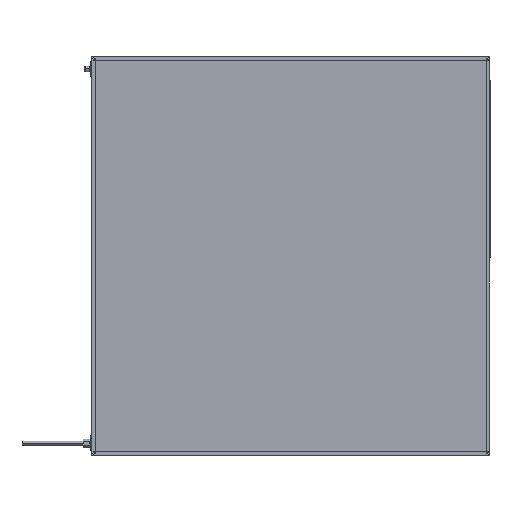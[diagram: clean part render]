
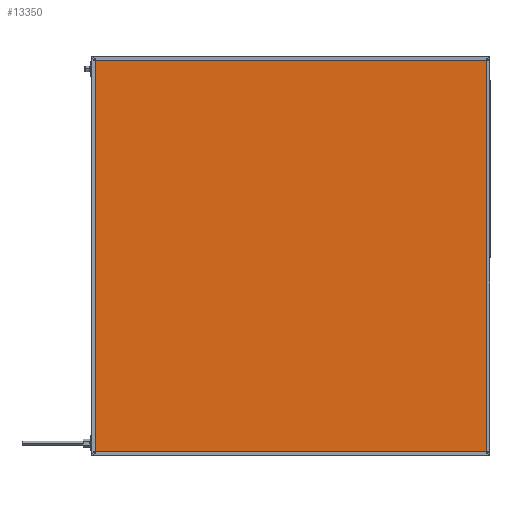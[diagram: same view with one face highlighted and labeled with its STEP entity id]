
A CAD part, top view. The second image highlights one B-rep face of the part: STEP entity #13350.
In plain terms, the highlighted planar face has unit normal (0, 0, 1).
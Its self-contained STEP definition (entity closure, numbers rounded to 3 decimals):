
#42 = CARTESIAN_POINT ( 'NONE',  ( 896., 896., 41.85 ) ) ;
#159 = CARTESIAN_POINT ( 'NONE',  ( 0., 4., 41.85 ) ) ;
#475 = LINE ( 'NONE', #4761, #4951 ) ;
#569 = DIRECTION ( 'NONE',  ( 0., -1., 0. ) ) ;
#1197 = VERTEX_POINT ( 'NONE', #4186 ) ;
#1491 = AXIS2_PLACEMENT_3D ( 'NONE', #14180, #15639, #8353 ) ;
#1809 = VECTOR ( 'NONE', #11196, 1000. ) ;
#2720 = CARTESIAN_POINT ( 'NONE',  ( 896., 0., 41.85 ) ) ;
#3663 = LINE ( 'NONE', #7582, #14258 ) ;
#4186 = CARTESIAN_POINT ( 'NONE',  ( 896., 4., 41.85 ) ) ;
#4761 = CARTESIAN_POINT ( 'NONE',  ( 4., 0., 41.85 ) ) ;
#4951 = VECTOR ( 'NONE', #569, 1000. ) ;
#5638 = LINE ( 'NONE', #159, #17476 ) ;
#7582 = CARTESIAN_POINT ( 'NONE',  ( 0., 896., 41.85 ) ) ;
#8168 = EDGE_LOOP ( 'NONE', ( #9461, #8388, #14054, #16279 ) ) ;
#8353 = DIRECTION ( 'NONE',  ( -1., 0., 0. ) ) ;
#8388 = ORIENTED_EDGE ( 'NONE', *, *, #11463, .T. ) ;
#9170 = CARTESIAN_POINT ( 'NONE',  ( 4., 896., 41.85 ) ) ;
#9461 = ORIENTED_EDGE ( 'NONE', *, *, #13903, .T. ) ;
#9917 = DIRECTION ( 'NONE',  ( 1., 0., 0. ) ) ;
#10675 = DIRECTION ( 'NONE',  ( -1., 0., 0. ) ) ;
#11196 = DIRECTION ( 'NONE',  ( 0., 1., 0. ) ) ;
#11267 = FACE_OUTER_BOUND ( 'NONE', #8168, .T. ) ;
#11463 = EDGE_CURVE ( 'NONE', #13296, #13063, #3663, .T. ) ;
#11923 = VERTEX_POINT ( 'NONE', #12719 ) ;
#12194 = EDGE_CURVE ( 'NONE', #13063, #11923, #475, .T. ) ;
#12719 = CARTESIAN_POINT ( 'NONE',  ( 4., 4., 41.85 ) ) ;
#12933 = EDGE_CURVE ( 'NONE', #11923, #1197, #5638, .T. ) ;
#13063 = VERTEX_POINT ( 'NONE', #9170 ) ;
#13296 = VERTEX_POINT ( 'NONE', #42 ) ;
#13350 = ADVANCED_FACE ( 'NONE', ( #11267 ), #16729, .F. ) ;
#13903 = EDGE_CURVE ( 'NONE', #1197, #13296, #16663, .T. ) ;
#14054 = ORIENTED_EDGE ( 'NONE', *, *, #12194, .T. ) ;
#14180 = CARTESIAN_POINT ( 'NONE',  ( 0., 0., 41.85 ) ) ;
#14258 = VECTOR ( 'NONE', #10675, 1000. ) ;
#15639 = DIRECTION ( 'NONE',  ( 0., 0., -1. ) ) ;
#16279 = ORIENTED_EDGE ( 'NONE', *, *, #12933, .T. ) ;
#16663 = LINE ( 'NONE', #2720, #1809 ) ;
#16729 = PLANE ( 'NONE',  #1491 ) ;
#17476 = VECTOR ( 'NONE', #9917, 1000. ) ;
